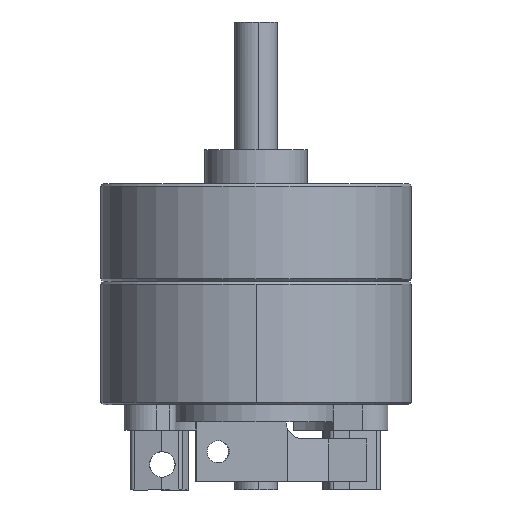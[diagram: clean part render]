
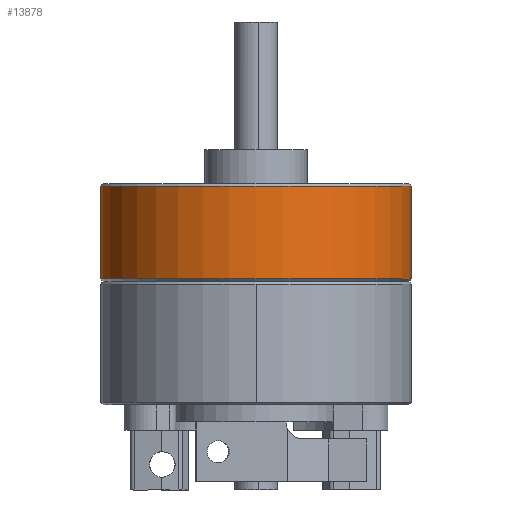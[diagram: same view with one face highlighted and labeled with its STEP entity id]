
A CAD part, front view. The second image highlights one B-rep face of the part: STEP entity #13878.
In plain terms, the highlighted cylindrical face has radius 18.25 mm (diameter 36.5 mm), a partial arc.
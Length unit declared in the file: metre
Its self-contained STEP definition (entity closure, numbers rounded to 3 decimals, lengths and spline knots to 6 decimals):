
#621 = CIRCLE ( 'NONE', #6917, 0.01825 ) ;
#1157 = DIRECTION ( 'NONE',  ( 0., 0., 1. ) ) ;
#1558 = VERTEX_POINT ( 'NONE', #2049 ) ;
#2049 = CARTESIAN_POINT ( 'NONE',  ( -0.01825, 0., -0.0003 ) ) ;
#3259 = VECTOR ( 'NONE', #1157, 1. ) ;
#3380 = AXIS2_PLACEMENT_3D ( 'NONE', #13655, #7416, #8504 ) ;
#3412 = LINE ( 'NONE', #4733, #3259 ) ;
#3561 = LINE ( 'NONE', #4641, #4366 ) ;
#3973 = EDGE_LOOP ( 'NONE', ( #12019, #11090, #9845, #11535 ) ) ;
#4366 = VECTOR ( 'NONE', #4631, 1. ) ;
#4631 = DIRECTION ( 'NONE',  ( 0., 0., 1. ) ) ;
#4641 = CARTESIAN_POINT ( 'NONE',  ( -0.01825, 0., -0.0112 ) ) ;
#4674 = CARTESIAN_POINT ( 'NONE',  ( 0.01825, 0., -0.0003 ) ) ;
#4733 = CARTESIAN_POINT ( 'NONE',  ( 0.01825, 0., -0.0112 ) ) ;
#5858 = CARTESIAN_POINT ( 'NONE',  ( 0.01825, 0., -0.0112 ) ) ;
#6651 = EDGE_CURVE ( 'NONE', #9346, #1558, #3561, .T. ) ;
#6694 = VERTEX_POINT ( 'NONE', #4674 ) ;
#6697 = EDGE_CURVE ( 'NONE', #7016, #6694, #3412, .T. ) ;
#6814 = CYLINDRICAL_SURFACE ( 'NONE', #3380, 0.01825 ) ;
#6917 = AXIS2_PLACEMENT_3D ( 'NONE', #11703, #11706, #11740 ) ;
#6958 = AXIS2_PLACEMENT_3D ( 'NONE', #11582, #11619, #11625 ) ;
#7016 = VERTEX_POINT ( 'NONE', #5858 ) ;
#7416 = DIRECTION ( 'NONE',  ( 0., 0., 1. ) ) ;
#7622 = CIRCLE ( 'NONE', #6958, 0.01825 ) ;
#8504 = DIRECTION ( 'NONE',  ( 1., 0., 0. ) ) ;
#9346 = VERTEX_POINT ( 'NONE', #9730 ) ;
#9730 = CARTESIAN_POINT ( 'NONE',  ( -0.01825, 0., -0.0112 ) ) ;
#9758 = FACE_OUTER_BOUND ( 'NONE', #3973, .T. ) ;
#9845 = ORIENTED_EDGE ( 'NONE', *, *, #6697, .T. ) ;
#10794 = EDGE_CURVE ( 'NONE', #7016, #9346, #7622, .T. ) ;
#10813 = EDGE_CURVE ( 'NONE', #6694, #1558, #621, .T. ) ;
#11090 = ORIENTED_EDGE ( 'NONE', *, *, #10794, .F. ) ;
#11535 = ORIENTED_EDGE ( 'NONE', *, *, #10813, .T. ) ;
#11582 = CARTESIAN_POINT ( 'NONE',  ( 0., 0., -0.0112 ) ) ;
#11619 = DIRECTION ( 'NONE',  ( 0., 0., -1. ) ) ;
#11625 = DIRECTION ( 'NONE',  ( 1., 0., 0. ) ) ;
#11703 = CARTESIAN_POINT ( 'NONE',  ( 0., 0., -0.0003 ) ) ;
#11706 = DIRECTION ( 'NONE',  ( 0., 0., -1. ) ) ;
#11740 = DIRECTION ( 'NONE',  ( -1., 0., 0. ) ) ;
#12019 = ORIENTED_EDGE ( 'NONE', *, *, #6651, .F. ) ;
#13655 = CARTESIAN_POINT ( 'NONE',  ( 0., 0., -0.0112 ) ) ;
#13878 = ADVANCED_FACE ( 'NONE', ( #9758 ), #6814, .T. ) ;
